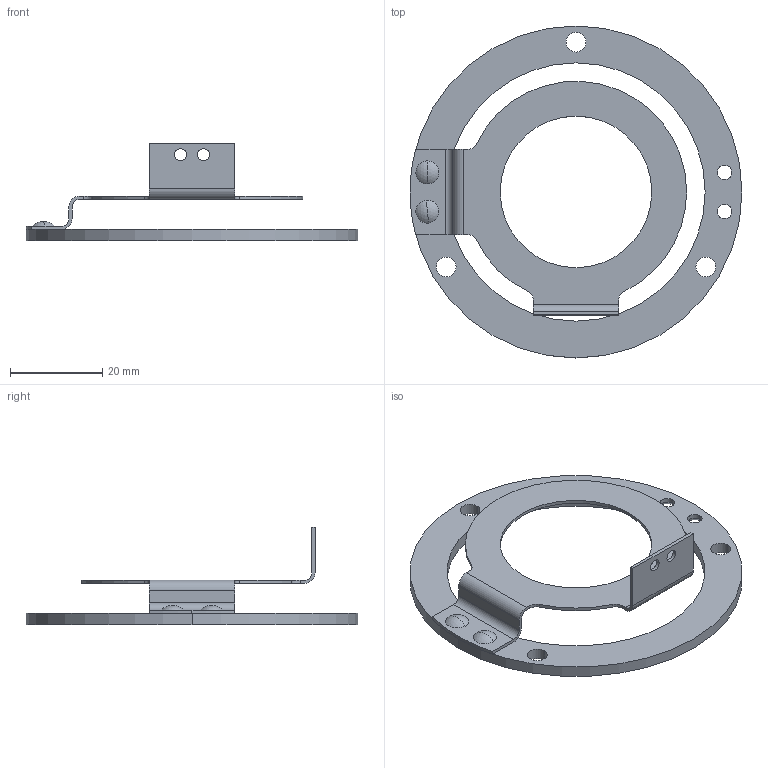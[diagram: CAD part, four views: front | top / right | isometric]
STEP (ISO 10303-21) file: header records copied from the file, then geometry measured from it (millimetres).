
FILE_DESCRIPTION (( 'STEP AP214' ), '1' );
FILE_NAME ('8.0010.1602.0000.STEP', '2008-10-23T08:24:00', ( 'admin' ), ( 'Fritz Kübler GmbH' ), 'SwSTEP 2.0', 'SolidWorks 2008', '' );
FILE_SCHEMA (( 'AUTOMOTIVE_DESIGN' ));
Length unit declared in the file: millimetre
Products named in the file (1): 8.0010.1602.0000
Bounding box: 72 x 72 x 21.2 mm (x, y, z)
Volume: 4911.3 mm3; surface area: 7697.9 mm2
Topology: 4 solids, 4 shells, 82 faces, 206 edges, 134 vertices
Faces by surface type: cylinder 47, plane 19, cone 12, sphere 4
Entity records: 3508 total; most frequent: DIRECTION 486, CARTESIAN_POINT 423, ORIENTED_EDGE 412, EDGE_CURVE 206, AXIS2_PLACEMENT_3D 197, VERTEX_POINT 134, CIRCLE 114, EDGE_LOOP 110
